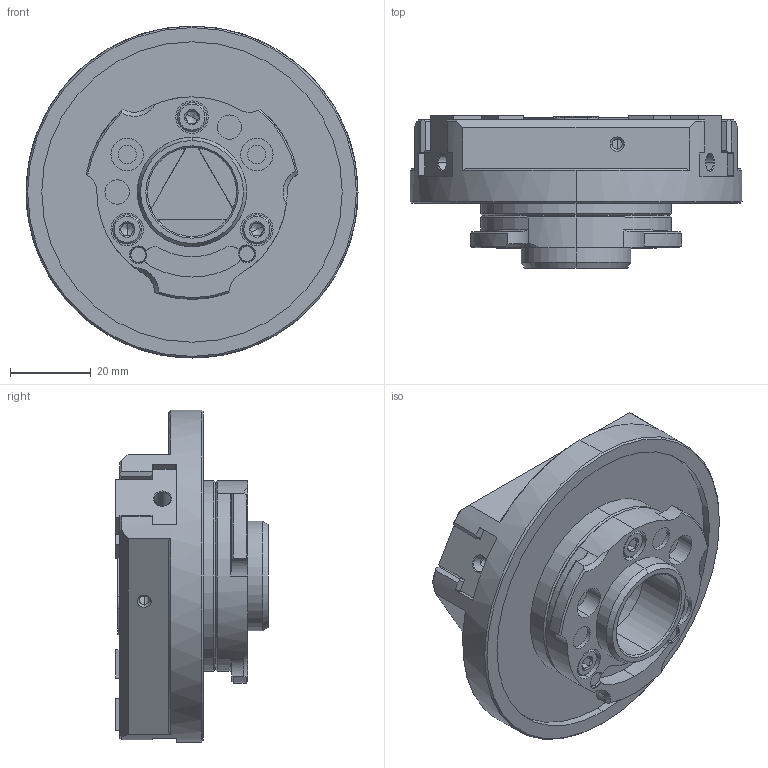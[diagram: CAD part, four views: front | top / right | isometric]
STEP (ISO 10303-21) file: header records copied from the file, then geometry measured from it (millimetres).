
FILE_DESCRIPTION (( 'STEP AP214' ), '1' );
FILE_NAME ('HP-QG30608-61G849968-20241122-HCL.STEP', '2024-11-22T02:11:59', ( '' ), ( '' ), 'SwSTEP 2.0', 'SolidWorks 2022', '' );
FILE_SCHEMA (( 'AUTOMOTIVE_DESIGN' ));
Length unit declared in the file: millimetre
Products named in the file (8): BOLT^HP-QG30608; HEIKOU PIN^HP-QG30608; HP-QG30608-61G849968-20241122-HCL; MASTER JAW^HP-QG30608; RING^HP-QG30608; S-SARA^HP-QG30608; COVER^HP-QG30608; BODY^HP-QG30608
Assembly tree (14 placements, depth 2):
  HP-QG30608-61G849968-20241122-HCL
    BODY^HP-QG30608
    MASTER JAW^HP-QG30608  x3
    RING^HP-QG30608
    COVER^HP-QG30608
    BOLT^HP-QG30608  x3
    S-SARA^HP-QG30608  x3
    HEIKOU PIN^HP-QG30608  x2
Bounding box: 82 x 37.6 x 82 mm (x, y, z)
Volume: 88029.5 mm3; surface area: 38619.7 mm2
Topology: 14 solids, 14 shells, 1652 faces, 4558 edges, 2982 vertices
Faces by surface type: plane 1121, cylinder 195, bspline 184, cone 143, torus 9
Entity records: 54540 total; most frequent: CARTESIAN_POINT 17906, ORIENTED_EDGE 8088, DIRECTION 6474, EDGE_CURVE 4044, LINE 3198, VECTOR 3198, VERTEX_POINT 2674, AXIS2_PLACEMENT_3D 1638
